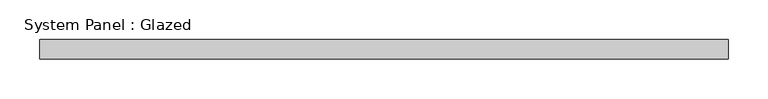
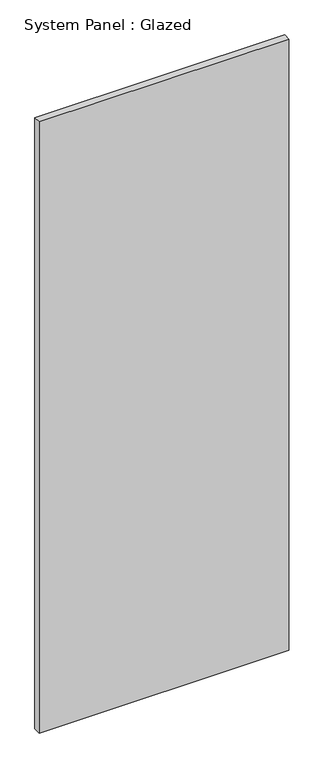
"""IFC4 building model written with IfcOpenShell, lengths in millimetres: plate geometry, System Panel : Glazed."""

from ifc_helpers import new_model, si_unit, origin, origin_with_axes, place, context, project, spatial, polyline, outline, extrude, source, transform, mapped, element, save


def system_panel_glazed_613df1e2(model_context):
    return source(origin(), model_context, "Body", "SweptSolid", [
        extrude(outline(polyline([(435.0, -72.5), (-435.0, -72.5), (-435.0, -47.5), (435.0, -47.5), (435.0, -72.5)])), origin_with_axes(), (0.0, 0.0, 1.0), 2249.9999999),
    ])


if __name__ == "__main__":
    model = new_model("IFC4")
    model_context = context("Model", 3, world=origin())
    ifc_project = project(units=[si_unit("LENGTHUNIT", "METRE", prefix="MILLI")], contexts=[model_context])
    site = spatial("IfcSite", under=ifc_project)
    building = spatial("IfcBuilding", under=site)
    placement = place(None, origin())
    system_panel_glazed_shape = system_panel_glazed_613df1e2(model_context)
    element("IfcPlate", 1, ObjectType="System Panel : Glazed", at=placement, inside=building, context=model_context, shape_type="MappedRepresentation", body=[
        mapped(system_panel_glazed_shape, transform((0.0, 0.0, 0.0), x_axis=(1.0, 0.0, 0.0), y_axis=(0.0, 1.0, 0.0), z_axis=(0.0, 0.0, 1.0))),
    ])
    save(model, "model.ifc")
